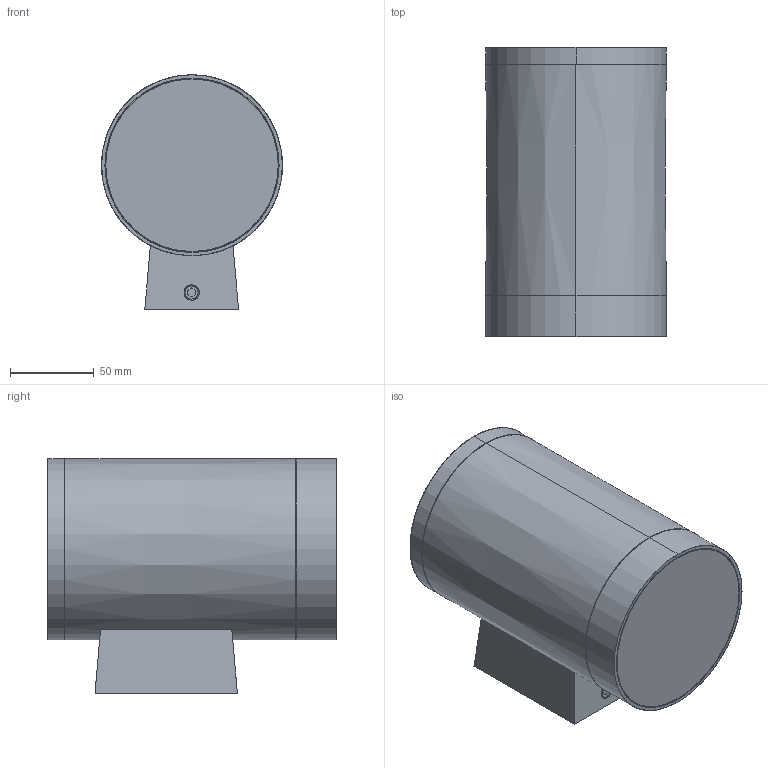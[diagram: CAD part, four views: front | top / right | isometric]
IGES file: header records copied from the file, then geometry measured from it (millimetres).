
Start section: SolidWorks IGES file using analytic representation for surfaces
Global section: file name: \\srvficheros\grupos\DISENYO\DESARROLLO DE PRODUCTO\_3D_WEB\NORI-A2044081\NORI-A2044081.IGS; native system: SolidWorks 2025; preprocessor: SolidWorks 2025; author: d.pons; date: 260115.072451; units: millimetre
Bounding box: 108 x 172.4 x 139.96 mm (x, y, z)
Surface area: 279532.7 mm2 (no closed solid volume)
Topology: 0 solids, 0 shells, 582 faces, 9871 edges, 9855 vertices
Faces by surface type: revolution 310, bspline 272
